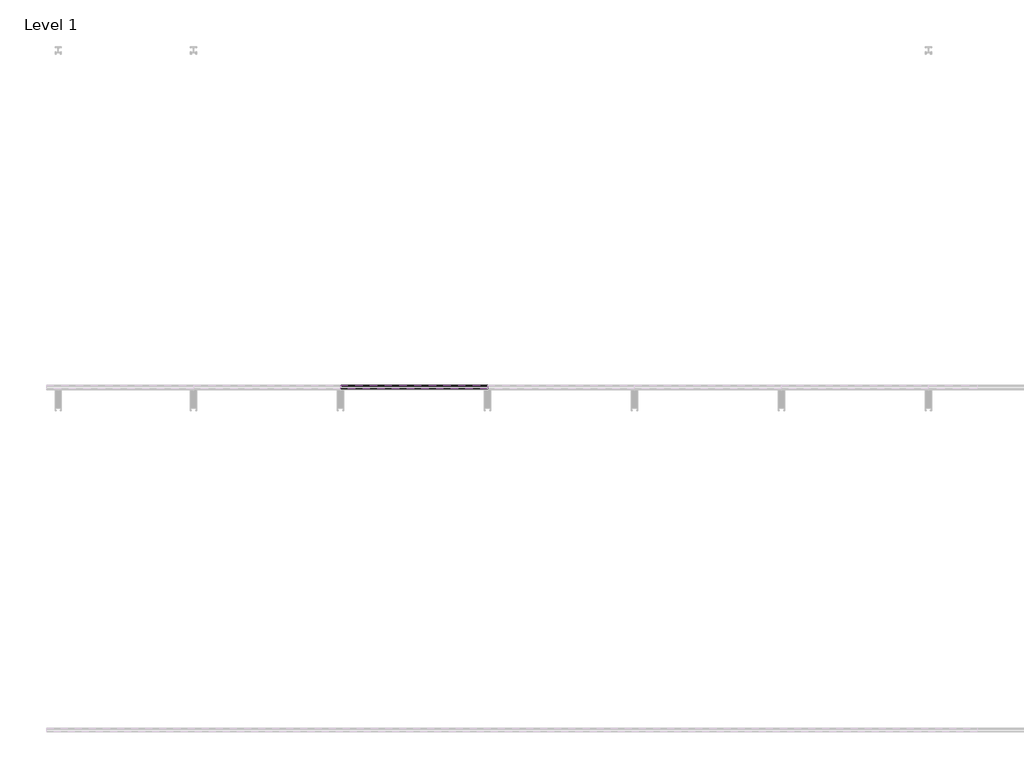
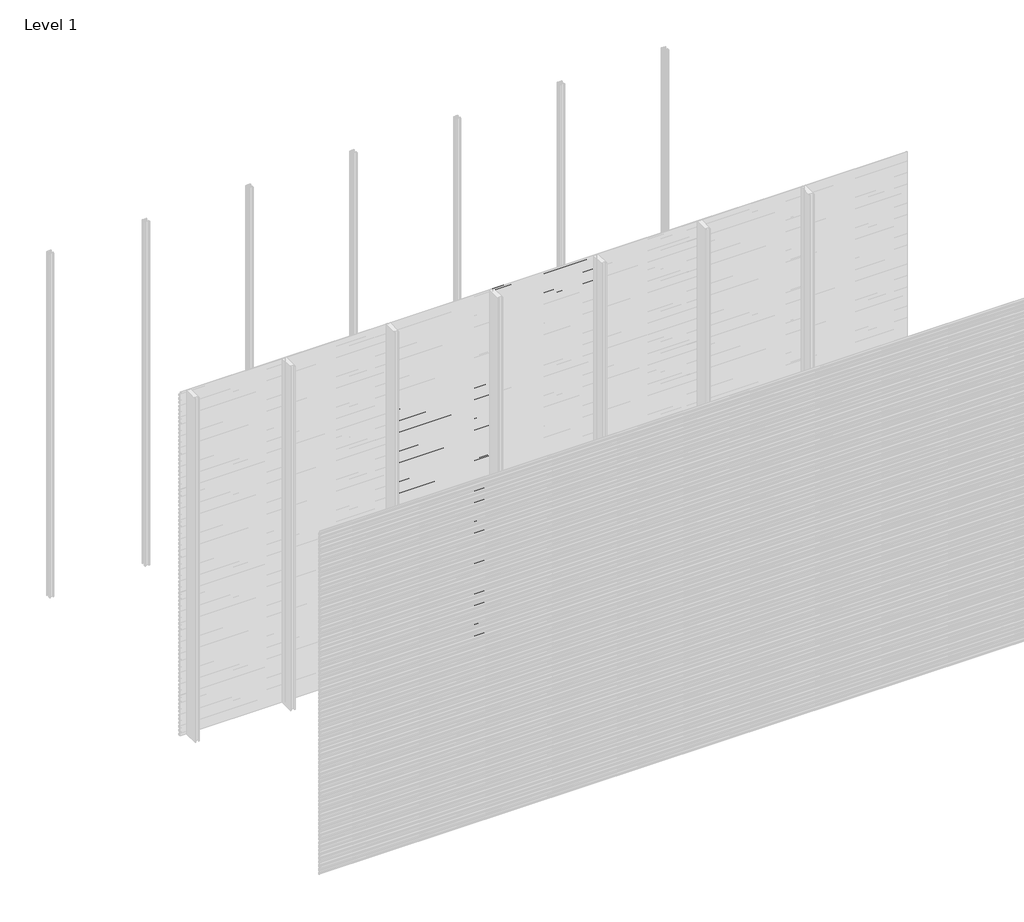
# One storey, part 17 of 96: 77 proxies.
"""IFC4 building model written with IfcOpenShell, lengths in millimetres."""

from ifc_helpers import new_model, si_unit, frame, origin, place, context, project, spatial, polyline, outline, extrude, element, save

model = new_model("IFC4")

# Units and contexts
model_context = context("Model", 3, world=origin())
ifc_project = project(units=[si_unit("LENGTHUNIT", "METRE", prefix="MILLI")], contexts=[model_context])

# Site, building, storey
site = spatial("IfcSite", under=ifc_project)
building = spatial("IfcBuilding", under=site)
storey = spatial("IfcBuildingStorey", under=building, Name="Level 1", Elevation=0.0)

# Proxies
placement = place(None, origin())
element("IfcBuildingElementProxy", 1, Name="Wall Sweeps", at=placement, inside=storey, context=model_context, shape_type="SweptSolid", body=[
    extrude(outline(polyline([(-47977.6, 2272.4655033), (-47977.6, 2258.1779188), (-47982.4114965, 2255.4), (-47982.4114965, 2256.6701706), (-47978.85, 2258.7264016), (-47978.85, 2271.7437382), (-47998.0, 2282.8000799), (-47998.0, 2297.7), (-47996.75, 2297.7), (-47996.75, 2283.5217609), (-47977.6, 2272.4655033)])), frame((1714.2857143, 0.0, 0.0), z_axis=(1.0, 0.0, 0.0), x_axis=(0.0, 1.0, 0.0)), (0.0, 0.0, 1.0), 857.1428571),
])
element("IfcBuildingElementProxy", 2, Name="Wall Sweeps", at=placement, inside=storey, context=model_context, shape_type="SweptSolid", body=[
    extrude(outline(polyline([(-47977.6, 2239.1655033), (-47977.6, 2224.8779188), (-47982.4114965, 2222.1), (-47982.4114965, 2223.3701706), (-47978.85, 2225.4264016), (-47978.85, 2238.4437382), (-47998.0, 2249.5000799), (-47998.0, 2264.4), (-47996.75, 2264.4), (-47996.75, 2250.2217609), (-47977.6, 2239.1655033)])), frame((1714.2857143, 0.0, 0.0), z_axis=(1.0, 0.0, 0.0), x_axis=(0.0, 1.0, 0.0)), (0.0, 0.0, 1.0), 857.1428571),
])
element("IfcBuildingElementProxy", 3, Name="Wall Sweeps", at=placement, inside=storey, context=model_context, shape_type="SweptSolid", body=[
    extrude(outline(polyline([(-47977.6, 2205.8655033), (-47977.6, 2191.5779188), (-47982.4114965, 2188.8), (-47982.4114965, 2190.0701706), (-47978.85, 2192.1264016), (-47978.85, 2205.1437382), (-47998.0, 2216.2000799), (-47998.0, 2231.1), (-47996.75, 2231.1), (-47996.75, 2216.9217609), (-47977.6, 2205.8655033)])), frame((1714.2857143, 0.0, 0.0), z_axis=(1.0, 0.0, 0.0), x_axis=(0.0, 1.0, 0.0)), (0.0, 0.0, 1.0), 857.1428571),
])
element("IfcBuildingElementProxy", 4, Name="Wall Sweeps", at=placement, inside=storey, context=model_context, shape_type="SweptSolid", body=[
    extrude(outline(polyline([(-47977.6, 2172.5655033), (-47977.6, 2158.2779188), (-47982.4114965, 2155.5), (-47982.4114965, 2156.7701706), (-47978.85, 2158.8264016), (-47978.85, 2171.8437382), (-47998.0, 2182.9000799), (-47998.0, 2197.8), (-47996.75, 2197.8), (-47996.75, 2183.6217609), (-47977.6, 2172.5655033)])), frame((1714.2857143, 0.0, 0.0), z_axis=(1.0, 0.0, 0.0), x_axis=(0.0, 1.0, 0.0)), (0.0, 0.0, 1.0), 857.1428571),
])
element("IfcBuildingElementProxy", 5, Name="Wall Sweeps", at=placement, inside=storey, context=model_context, shape_type="SweptSolid", body=[
    extrude(outline(polyline([(-47977.6, 2139.2655033), (-47977.6, 2124.9779188), (-47982.4114965, 2122.2), (-47982.4114965, 2123.4701706), (-47978.85, 2125.5264016), (-47978.85, 2138.5437382), (-47998.0, 2149.6000799), (-47998.0, 2164.5), (-47996.75, 2164.5), (-47996.75, 2150.3217609), (-47977.6, 2139.2655033)])), frame((1714.2857143, 0.0, 0.0), z_axis=(1.0, 0.0, 0.0), x_axis=(0.0, 1.0, 0.0)), (0.0, 0.0, 1.0), 857.1428571),
])
element("IfcBuildingElementProxy", 6, Name="Wall Sweeps", at=placement, inside=storey, context=model_context, shape_type="SweptSolid", body=[
    extrude(outline(polyline([(-47977.6, 2105.9655033), (-47977.6, 2091.6779188), (-47982.4114965, 2088.9), (-47982.4114965, 2090.1701706), (-47978.85, 2092.2264016), (-47978.85, 2105.2437382), (-47998.0, 2116.3000799), (-47998.0, 2131.2), (-47996.75, 2131.2), (-47996.75, 2117.0217609), (-47977.6, 2105.9655033)])), frame((1714.2857143, 0.0, 0.0), z_axis=(1.0, 0.0, 0.0), x_axis=(0.0, 1.0, 0.0)), (0.0, 0.0, 1.0), 857.1428571),
])
element("IfcBuildingElementProxy", 7, Name="Wall Sweeps", at=placement, inside=storey, context=model_context, shape_type="SweptSolid", body=[
    extrude(outline(polyline([(-47977.6, 2072.6655033), (-47977.6, 2058.3779188), (-47982.4114965, 2055.6), (-47982.4114965, 2056.8701706), (-47978.85, 2058.9264016), (-47978.85, 2071.9437382), (-47998.0, 2083.0000799), (-47998.0, 2097.9), (-47996.75, 2097.9), (-47996.75, 2083.7217609), (-47977.6, 2072.6655033)])), frame((1714.2857143, 0.0, 0.0), z_axis=(1.0, 0.0, 0.0), x_axis=(0.0, 1.0, 0.0)), (0.0, 0.0, 1.0), 857.1428571),
])
element("IfcBuildingElementProxy", 8, Name="Wall Sweeps", at=placement, inside=storey, context=model_context, shape_type="SweptSolid", body=[
    extrude(outline(polyline([(-47977.6, 2039.3655033), (-47977.6, 2025.0779188), (-47982.4114965, 2022.3), (-47982.4114965, 2023.5701706), (-47978.85, 2025.6264016), (-47978.85, 2038.6437382), (-47998.0, 2049.7000799), (-47998.0, 2064.6), (-47996.75, 2064.6), (-47996.75, 2050.4217609), (-47977.6, 2039.3655033)])), frame((1714.2857143, 0.0, 0.0), z_axis=(1.0, 0.0, 0.0), x_axis=(0.0, 1.0, 0.0)), (0.0, 0.0, 1.0), 857.1428571),
])
element("IfcBuildingElementProxy", 9, Name="Wall Sweeps", at=placement, inside=storey, context=model_context, shape_type="SweptSolid", body=[
    extrude(outline(polyline([(-47977.6, 2006.0655033), (-47977.6, 1991.7779188), (-47982.4114965, 1989.0), (-47982.4114965, 1990.2701706), (-47978.85, 1992.3264016), (-47978.85, 2005.3437382), (-47998.0, 2016.4000799), (-47998.0, 2031.3), (-47996.75, 2031.3), (-47996.75, 2017.1217609), (-47977.6, 2006.0655033)])), frame((1714.2857143, 0.0, 0.0), z_axis=(1.0, 0.0, 0.0), x_axis=(0.0, 1.0, 0.0)), (0.0, 0.0, 1.0), 857.1428571),
])
element("IfcBuildingElementProxy", 10, Name="Wall Sweeps", at=placement, inside=storey, context=model_context, shape_type="SweptSolid", body=[
    extrude(outline(polyline([(-47977.6, 1972.7655033), (-47977.6, 1958.4779188), (-47982.4114965, 1955.7), (-47982.4114965, 1956.9701706), (-47978.85, 1959.0264016), (-47978.85, 1972.0437382), (-47998.0, 1983.1000799), (-47998.0, 1998.0), (-47996.75, 1998.0), (-47996.75, 1983.8217609), (-47977.6, 1972.7655033)])), frame((1714.2857143, 0.0, 0.0), z_axis=(1.0, 0.0, 0.0), x_axis=(0.0, 1.0, 0.0)), (0.0, 0.0, 1.0), 857.1428571),
])
element("IfcBuildingElementProxy", 11, Name="Wall Sweeps", at=placement, inside=storey, context=model_context, shape_type="SweptSolid", body=[
    extrude(outline(polyline([(-47977.6, 1939.4655033), (-47977.6, 1925.1779188), (-47982.4114965, 1922.4), (-47982.4114965, 1923.6701706), (-47978.85, 1925.7264016), (-47978.85, 1938.7437382), (-47998.0, 1949.8000799), (-47998.0, 1964.7), (-47996.75, 1964.7), (-47996.75, 1950.5217609), (-47977.6, 1939.4655033)])), frame((1714.2857143, 0.0, 0.0), z_axis=(1.0, 0.0, 0.0), x_axis=(0.0, 1.0, 0.0)), (0.0, 0.0, 1.0), 857.1428571),
])
element("IfcBuildingElementProxy", 12, Name="Wall Sweeps", at=placement, inside=storey, context=model_context, shape_type="SweptSolid", body=[
    extrude(outline(polyline([(-47977.6, 1906.1655033), (-47977.6, 1891.8779188), (-47982.4114965, 1889.1), (-47982.4114965, 1890.3701706), (-47978.85, 1892.4264016), (-47978.85, 1905.4437382), (-47998.0, 1916.5000799), (-47998.0, 1931.4), (-47996.75, 1931.4), (-47996.75, 1917.2217609), (-47977.6, 1906.1655033)])), frame((1714.2857143, 0.0, 0.0), z_axis=(1.0, 0.0, 0.0), x_axis=(0.0, 1.0, 0.0)), (0.0, 0.0, 1.0), 857.1428571),
])
element("IfcBuildingElementProxy", 13, Name="Wall Sweeps", at=placement, inside=storey, context=model_context, shape_type="SweptSolid", body=[
    extrude(outline(polyline([(-47977.6, 1872.8655033), (-47977.6, 1858.5779188), (-47982.4114965, 1855.8), (-47982.4114965, 1857.0701706), (-47978.85, 1859.1264016), (-47978.85, 1872.1437382), (-47998.0, 1883.2000799), (-47998.0, 1898.1), (-47996.75, 1898.1), (-47996.75, 1883.9217609), (-47977.6, 1872.8655033)])), frame((1714.2857143, 0.0, 0.0), z_axis=(1.0, 0.0, 0.0), x_axis=(0.0, 1.0, 0.0)), (0.0, 0.0, 1.0), 857.1428571),
])
element("IfcBuildingElementProxy", 14, Name="Wall Sweeps", at=placement, inside=storey, context=model_context, shape_type="SweptSolid", body=[
    extrude(outline(polyline([(-47977.6, 1839.5655033), (-47977.6, 1825.2779188), (-47982.4114965, 1822.5), (-47982.4114965, 1823.7701706), (-47978.85, 1825.8264016), (-47978.85, 1838.8437382), (-47998.0, 1849.9000799), (-47998.0, 1864.8), (-47996.75, 1864.8), (-47996.75, 1850.6217609), (-47977.6, 1839.5655033)])), frame((1714.2857143, 0.0, 0.0), z_axis=(1.0, 0.0, 0.0), x_axis=(0.0, 1.0, 0.0)), (0.0, 0.0, 1.0), 857.1428571),
])
element("IfcBuildingElementProxy", 15, Name="Wall Sweeps", at=placement, inside=storey, context=model_context, shape_type="SweptSolid", body=[
    extrude(outline(polyline([(-47977.6, 1806.2655033), (-47977.6, 1791.9779188), (-47982.4114965, 1789.2), (-47982.4114965, 1790.4701706), (-47978.85, 1792.5264016), (-47978.85, 1805.5437382), (-47998.0, 1816.6000799), (-47998.0, 1831.5), (-47996.75, 1831.5), (-47996.75, 1817.3217609), (-47977.6, 1806.2655033)])), frame((1714.2857143, 0.0, 0.0), z_axis=(1.0, 0.0, 0.0), x_axis=(0.0, 1.0, 0.0)), (0.0, 0.0, 1.0), 857.1428571),
])
element("IfcBuildingElementProxy", 16, Name="Wall Sweeps", at=placement, inside=storey, context=model_context, shape_type="SweptSolid", body=[
    extrude(outline(polyline([(-47977.6, 1772.9655033), (-47977.6, 1758.6779188), (-47982.4114965, 1755.9), (-47982.4114965, 1757.1701706), (-47978.85, 1759.2264016), (-47978.85, 1772.2437382), (-47998.0, 1783.3000799), (-47998.0, 1798.2), (-47996.75, 1798.2), (-47996.75, 1784.0217609), (-47977.6, 1772.9655033)])), frame((1714.2857143, 0.0, 0.0), z_axis=(1.0, 0.0, 0.0), x_axis=(0.0, 1.0, 0.0)), (0.0, 0.0, 1.0), 857.1428571),
])
element("IfcBuildingElementProxy", 17, Name="Wall Sweeps", at=placement, inside=storey, context=model_context, shape_type="SweptSolid", body=[
    extrude(outline(polyline([(-47977.6, 1739.6655033), (-47977.6, 1725.3779188), (-47982.4114965, 1722.6), (-47982.4114965, 1723.8701706), (-47978.85, 1725.9264016), (-47978.85, 1738.9437382), (-47998.0, 1750.0000799), (-47998.0, 1764.9), (-47996.75, 1764.9), (-47996.75, 1750.7217609), (-47977.6, 1739.6655033)])), frame((1714.2857143, 0.0, 0.0), z_axis=(1.0, 0.0, 0.0), x_axis=(0.0, 1.0, 0.0)), (0.0, 0.0, 1.0), 857.1428571),
])
element("IfcBuildingElementProxy", 18, Name="Wall Sweeps", at=placement, inside=storey, context=model_context, shape_type="SweptSolid", body=[
    extrude(outline(polyline([(-47977.6, 1706.3655033), (-47977.6, 1692.0779188), (-47982.4114965, 1689.3), (-47982.4114965, 1690.5701706), (-47978.85, 1692.6264016), (-47978.85, 1705.6437382), (-47998.0, 1716.7000799), (-47998.0, 1731.6), (-47996.75, 1731.6), (-47996.75, 1717.4217609), (-47977.6, 1706.3655033)])), frame((1714.2857143, 0.0, 0.0), z_axis=(1.0, 0.0, 0.0), x_axis=(0.0, 1.0, 0.0)), (0.0, 0.0, 1.0), 857.1428571),
])
element("IfcBuildingElementProxy", 19, Name="Wall Sweeps", at=placement, inside=storey, context=model_context, shape_type="SweptSolid", body=[
    extrude(outline(polyline([(-47977.6, 1673.0655033), (-47977.6, 1658.7779188), (-47982.4114965, 1656.0), (-47982.4114965, 1657.2701706), (-47978.85, 1659.3264016), (-47978.85, 1672.3437382), (-47998.0, 1683.4000799), (-47998.0, 1698.3), (-47996.75, 1698.3), (-47996.75, 1684.1217609), (-47977.6, 1673.0655033)])), frame((1714.2857143, 0.0, 0.0), z_axis=(1.0, 0.0, 0.0), x_axis=(0.0, 1.0, 0.0)), (0.0, 0.0, 1.0), 857.1428571),
])
element("IfcBuildingElementProxy", 20, Name="Wall Sweeps", at=placement, inside=storey, context=model_context, shape_type="SweptSolid", body=[
    extrude(outline(polyline([(-47977.6, 1639.7655033), (-47977.6, 1625.4779188), (-47982.4114965, 1622.7), (-47982.4114965, 1623.9701706), (-47978.85, 1626.0264016), (-47978.85, 1639.0437382), (-47998.0, 1650.1000799), (-47998.0, 1665.0), (-47996.75, 1665.0), (-47996.75, 1650.8217609), (-47977.6, 1639.7655033)])), frame((1714.2857143, 0.0, 0.0), z_axis=(1.0, 0.0, 0.0), x_axis=(0.0, 1.0, 0.0)), (0.0, 0.0, 1.0), 857.1428571),
])
element("IfcBuildingElementProxy", 21, Name="Wall Sweeps", at=placement, inside=storey, context=model_context, shape_type="SweptSolid", body=[
    extrude(outline(polyline([(-47977.6, 1606.4655033), (-47977.6, 1592.1779188), (-47982.4114965, 1589.4), (-47982.4114965, 1590.6701706), (-47978.85, 1592.7264016), (-47978.85, 1605.7437382), (-47998.0, 1616.8000799), (-47998.0, 1631.7), (-47996.75, 1631.7), (-47996.75, 1617.5217609), (-47977.6, 1606.4655033)])), frame((1714.2857143, 0.0, 0.0), z_axis=(1.0, 0.0, 0.0), x_axis=(0.0, 1.0, 0.0)), (0.0, 0.0, 1.0), 857.1428571),
])
element("IfcBuildingElementProxy", 22, Name="Wall Sweeps", at=placement, inside=storey, context=model_context, shape_type="SweptSolid", body=[
    extrude(outline(polyline([(-47977.6, 1573.1655033), (-47977.6, 1558.8779188), (-47982.4114965, 1556.1), (-47982.4114965, 1557.3701706), (-47978.85, 1559.4264016), (-47978.85, 1572.4437382), (-47998.0, 1583.5000799), (-47998.0, 1598.4), (-47996.75, 1598.4), (-47996.75, 1584.2217609), (-47977.6, 1573.1655033)])), frame((1714.2857143, 0.0, 0.0), z_axis=(1.0, 0.0, 0.0), x_axis=(0.0, 1.0, 0.0)), (0.0, 0.0, 1.0), 857.1428571),
])
element("IfcBuildingElementProxy", 23, Name="Wall Sweeps", at=placement, inside=storey, context=model_context, shape_type="SweptSolid", body=[
    extrude(outline(polyline([(-47977.6, 1539.8655033), (-47977.6, 1525.5779188), (-47982.4114965, 1522.8), (-47982.4114965, 1524.0701706), (-47978.85, 1526.1264016), (-47978.85, 1539.1437382), (-47998.0, 1550.2000799), (-47998.0, 1565.1), (-47996.75, 1565.1), (-47996.75, 1550.9217609), (-47977.6, 1539.8655033)])), frame((1714.2857143, 0.0, 0.0), z_axis=(1.0, 0.0, 0.0), x_axis=(0.0, 1.0, 0.0)), (0.0, 0.0, 1.0), 857.1428571),
])
element("IfcBuildingElementProxy", 24, Name="Wall Sweeps", at=placement, inside=storey, context=model_context, shape_type="SweptSolid", body=[
    extrude(outline(polyline([(-47977.6, 1506.5655033), (-47977.6, 1492.2779188), (-47982.4114965, 1489.5), (-47982.4114965, 1490.7701706), (-47978.85, 1492.8264016), (-47978.85, 1505.8437382), (-47998.0, 1516.9000799), (-47998.0, 1531.8), (-47996.75, 1531.8), (-47996.75, 1517.6217609), (-47977.6, 1506.5655033)])), frame((1714.2857143, 0.0, 0.0), z_axis=(1.0, 0.0, 0.0), x_axis=(0.0, 1.0, 0.0)), (0.0, 0.0, 1.0), 857.1428571),
])
element("IfcBuildingElementProxy", 25, Name="Wall Sweeps", at=placement, inside=storey, context=model_context, shape_type="SweptSolid", body=[
    extrude(outline(polyline([(-47977.6, 1473.2655033), (-47977.6, 1458.9779188), (-47982.4114965, 1456.2), (-47982.4114965, 1457.4701706), (-47978.85, 1459.5264016), (-47978.85, 1472.5437382), (-47998.0, 1483.6000799), (-47998.0, 1498.5), (-47996.75, 1498.5), (-47996.75, 1484.3217609), (-47977.6, 1473.2655033)])), frame((1714.2857143, 0.0, 0.0), z_axis=(1.0, 0.0, 0.0), x_axis=(0.0, 1.0, 0.0)), (0.0, 0.0, 1.0), 857.1428571),
])
element("IfcBuildingElementProxy", 26, Name="Wall Sweeps", at=placement, inside=storey, context=model_context, shape_type="SweptSolid", body=[
    extrude(outline(polyline([(-47977.6, 1439.9655033), (-47977.6, 1425.6779188), (-47982.4114965, 1422.9), (-47982.4114965, 1424.1701706), (-47978.85, 1426.2264016), (-47978.85, 1439.2437382), (-47998.0, 1450.3000799), (-47998.0, 1465.2), (-47996.75, 1465.2), (-47996.75, 1451.0217609), (-47977.6, 1439.9655033)])), frame((1714.2857143, 0.0, 0.0), z_axis=(1.0, 0.0, 0.0), x_axis=(0.0, 1.0, 0.0)), (0.0, 0.0, 1.0), 857.1428571),
])
element("IfcBuildingElementProxy", 27, Name="Wall Sweeps", at=placement, inside=storey, context=model_context, shape_type="SweptSolid", body=[
    extrude(outline(polyline([(-47977.6, 1406.6655033), (-47977.6, 1392.3779188), (-47982.4114965, 1389.6), (-47982.4114965, 1390.8701706), (-47978.85, 1392.9264016), (-47978.85, 1405.9437382), (-47998.0, 1417.0000799), (-47998.0, 1431.9), (-47996.75, 1431.9), (-47996.75, 1417.7217609), (-47977.6, 1406.6655033)])), frame((1714.2857143, 0.0, 0.0), z_axis=(1.0, 0.0, 0.0), x_axis=(0.0, 1.0, 0.0)), (0.0, 0.0, 1.0), 857.1428571),
])
element("IfcBuildingElementProxy", 28, Name="Wall Sweeps", at=placement, inside=storey, context=model_context, shape_type="SweptSolid", body=[
    extrude(outline(polyline([(-47977.6, 1373.3655033), (-47977.6, 1359.0779188), (-47982.4114965, 1356.3), (-47982.4114965, 1357.5701706), (-47978.85, 1359.6264016), (-47978.85, 1372.6437382), (-47998.0, 1383.7000799), (-47998.0, 1398.6), (-47996.75, 1398.6), (-47996.75, 1384.4217609), (-47977.6, 1373.3655033)])), frame((1714.2857143, 0.0, 0.0), z_axis=(1.0, 0.0, 0.0), x_axis=(0.0, 1.0, 0.0)), (0.0, 0.0, 1.0), 857.1428571),
])
element("IfcBuildingElementProxy", 29, Name="Wall Sweeps", at=placement, inside=storey, context=model_context, shape_type="SweptSolid", body=[
    extrude(outline(polyline([(-47977.6, 1340.0655033), (-47977.6, 1325.7779188), (-47982.4114965, 1323.0), (-47982.4114965, 1324.2701706), (-47978.85, 1326.3264016), (-47978.85, 1339.3437382), (-47998.0, 1350.4000799), (-47998.0, 1365.3), (-47996.75, 1365.3), (-47996.75, 1351.1217609), (-47977.6, 1340.0655033)])), frame((1714.2857143, 0.0, 0.0), z_axis=(1.0, 0.0, 0.0), x_axis=(0.0, 1.0, 0.0)), (0.0, 0.0, 1.0), 857.1428571),
])
element("IfcBuildingElementProxy", 30, Name="Wall Sweeps", at=placement, inside=storey, context=model_context, shape_type="SweptSolid", body=[
    extrude(outline(polyline([(-47977.6, 1306.7655033), (-47977.6, 1292.4779188), (-47982.4114965, 1289.7), (-47982.4114965, 1290.9701706), (-47978.85, 1293.0264016), (-47978.85, 1306.0437382), (-47998.0, 1317.1000799), (-47998.0, 1332.0), (-47996.75, 1332.0), (-47996.75, 1317.8217609), (-47977.6, 1306.7655033)])), frame((1714.2857143, 0.0, 0.0), z_axis=(1.0, 0.0, 0.0), x_axis=(0.0, 1.0, 0.0)), (0.0, 0.0, 1.0), 857.1428571),
])
element("IfcBuildingElementProxy", 31, Name="Wall Sweeps", at=placement, inside=storey, context=model_context, shape_type="SweptSolid", body=[
    extrude(outline(polyline([(-47977.6, 1273.4655033), (-47977.6, 1259.1779188), (-47982.4114965, 1256.4), (-47982.4114965, 1257.6701706), (-47978.85, 1259.7264016), (-47978.85, 1272.7437382), (-47998.0, 1283.8000799), (-47998.0, 1298.7), (-47996.75, 1298.7), (-47996.75, 1284.5217609), (-47977.6, 1273.4655033)])), frame((1714.2857143, 0.0, 0.0), z_axis=(1.0, 0.0, 0.0), x_axis=(0.0, 1.0, 0.0)), (0.0, 0.0, 1.0), 857.1428571),
])
element("IfcBuildingElementProxy", 32, Name="Wall Sweeps", at=placement, inside=storey, context=model_context, shape_type="SweptSolid", body=[
    extrude(outline(polyline([(-47977.6, 1240.1655033), (-47977.6, 1225.8779188), (-47982.4114965, 1223.1), (-47982.4114965, 1224.3701706), (-47978.85, 1226.4264016), (-47978.85, 1239.4437382), (-47998.0, 1250.5000799), (-47998.0, 1265.4), (-47996.75, 1265.4), (-47996.75, 1251.2217609), (-47977.6, 1240.1655033)])), frame((1714.2857143, 0.0, 0.0), z_axis=(1.0, 0.0, 0.0), x_axis=(0.0, 1.0, 0.0)), (0.0, 0.0, 1.0), 857.1428571),
])
element("IfcBuildingElementProxy", 33, Name="Wall Sweeps", at=placement, inside=storey, context=model_context, shape_type="SweptSolid", body=[
    extrude(outline(polyline([(-47977.6, 1206.8655033), (-47977.6, 1192.5779188), (-47982.4114965, 1189.8), (-47982.4114965, 1191.0701706), (-47978.85, 1193.1264016), (-47978.85, 1206.1437382), (-47998.0, 1217.2000799), (-47998.0, 1232.1), (-47996.75, 1232.1), (-47996.75, 1217.9217609), (-47977.6, 1206.8655033)])), frame((1714.2857143, 0.0, 0.0), z_axis=(1.0, 0.0, 0.0), x_axis=(0.0, 1.0, 0.0)), (0.0, 0.0, 1.0), 857.1428571),
])
element("IfcBuildingElementProxy", 34, Name="Wall Sweeps", at=placement, inside=storey, context=model_context, shape_type="SweptSolid", body=[
    extrude(outline(polyline([(-47977.6, 1173.5655033), (-47977.6, 1159.2779188), (-47982.4114965, 1156.5), (-47982.4114965, 1157.7701706), (-47978.85, 1159.8264016), (-47978.85, 1172.8437382), (-47998.0, 1183.9000799), (-47998.0, 1198.8), (-47996.75, 1198.8), (-47996.75, 1184.6217609), (-47977.6, 1173.5655033)])), frame((1714.2857143, 0.0, 0.0), z_axis=(1.0, 0.0, 0.0), x_axis=(0.0, 1.0, 0.0)), (0.0, 0.0, 1.0), 857.1428571),
])
element("IfcBuildingElementProxy", 35, Name="Wall Sweeps", at=placement, inside=storey, context=model_context, shape_type="SweptSolid", body=[
    extrude(outline(polyline([(-47977.6, 1140.2655033), (-47977.6, 1125.9779188), (-47982.4114965, 1123.2), (-47982.4114965, 1124.4701706), (-47978.85, 1126.5264016), (-47978.85, 1139.5437382), (-47998.0, 1150.6000799), (-47998.0, 1165.5), (-47996.75, 1165.5), (-47996.75, 1151.3217609), (-47977.6, 1140.2655033)])), frame((1714.2857143, 0.0, 0.0), z_axis=(1.0, 0.0, 0.0), x_axis=(0.0, 1.0, 0.0)), (0.0, 0.0, 1.0), 857.1428571),
])
element("IfcBuildingElementProxy", 36, Name="Wall Sweeps", at=placement, inside=storey, context=model_context, shape_type="SweptSolid", body=[
    extrude(outline(polyline([(-47977.6, 1106.9655033), (-47977.6, 1092.6779188), (-47982.4114965, 1089.9), (-47982.4114965, 1091.1701706), (-47978.85, 1093.2264016), (-47978.85, 1106.2437382), (-47998.0, 1117.3000799), (-47998.0, 1132.2), (-47996.75, 1132.2), (-47996.75, 1118.0217609), (-47977.6, 1106.9655033)])), frame((1714.2857143, 0.0, 0.0), z_axis=(1.0, 0.0, 0.0), x_axis=(0.0, 1.0, 0.0)), (0.0, 0.0, 1.0), 857.1428571),
])
element("IfcBuildingElementProxy", 37, Name="Wall Sweeps", at=placement, inside=storey, context=model_context, shape_type="SweptSolid", body=[
    extrude(outline(polyline([(-47977.6, 1073.6655033), (-47977.6, 1059.3779188), (-47982.4114965, 1056.6), (-47982.4114965, 1057.8701706), (-47978.85, 1059.9264016), (-47978.85, 1072.9437382), (-47998.0, 1084.0000799), (-47998.0, 1098.9), (-47996.75, 1098.9), (-47996.75, 1084.7217609), (-47977.6, 1073.6655033)])), frame((1714.2857143, 0.0, 0.0), z_axis=(1.0, 0.0, 0.0), x_axis=(0.0, 1.0, 0.0)), (0.0, 0.0, 1.0), 857.1428571),
])
element("IfcBuildingElementProxy", 38, Name="Wall Sweeps", at=placement, inside=storey, context=model_context, shape_type="SweptSolid", body=[
    extrude(outline(polyline([(-47977.6, 1040.3655033), (-47977.6, 1026.0779188), (-47982.4114965, 1023.3), (-47982.4114965, 1024.5701706), (-47978.85, 1026.6264016), (-47978.85, 1039.6437382), (-47998.0, 1050.7000799), (-47998.0, 1065.6), (-47996.75, 1065.6), (-47996.75, 1051.4217609), (-47977.6, 1040.3655033)])), frame((1714.2857143, 0.0, 0.0), z_axis=(1.0, 0.0, 0.0), x_axis=(0.0, 1.0, 0.0)), (0.0, 0.0, 1.0), 857.1428571),
])
element("IfcBuildingElementProxy", 39, Name="Wall Sweeps", at=placement, inside=storey, context=model_context, shape_type="SweptSolid", body=[
    extrude(outline(polyline([(-47977.6, 1007.0655033), (-47977.6, 992.7779188), (-47982.4114965, 990.0), (-47982.4114965, 991.2701706), (-47978.85, 993.3264016), (-47978.85, 1006.3437382), (-47998.0, 1017.4000799), (-47998.0, 1032.3), (-47996.75, 1032.3), (-47996.75, 1018.1217609), (-47977.6, 1007.0655033)])), frame((1714.2857143, 0.0, 0.0), z_axis=(1.0, 0.0, 0.0), x_axis=(0.0, 1.0, 0.0)), (0.0, 0.0, 1.0), 857.1428571),
])
element("IfcBuildingElementProxy", 40, Name="Wall Sweeps", at=placement, inside=storey, context=model_context, shape_type="SweptSolid", body=[
    extrude(outline(polyline([(-47977.6, 973.7655033), (-47977.6, 959.4779188), (-47982.4114965, 956.7), (-47982.4114965, 957.9701706), (-47978.85, 960.0264016), (-47978.85, 973.0437382), (-47998.0, 984.1000799), (-47998.0, 999.0), (-47996.75, 999.0), (-47996.75, 984.8217609), (-47977.6, 973.7655033)])), frame((1714.2857143, 0.0, 0.0), z_axis=(1.0, 0.0, 0.0), x_axis=(0.0, 1.0, 0.0)), (0.0, 0.0, 1.0), 857.1428571),
])
element("IfcBuildingElementProxy", 41, Name="Wall Sweeps", at=placement, inside=storey, context=model_context, shape_type="SweptSolid", body=[
    extrude(outline(polyline([(-47977.6, 940.4655033), (-47977.6, 926.1779188), (-47982.4114965, 923.4), (-47982.4114965, 924.6701706), (-47978.85, 926.7264016), (-47978.85, 939.7437382), (-47998.0, 950.8000799), (-47998.0, 965.7), (-47996.75, 965.7), (-47996.75, 951.5217609), (-47977.6, 940.4655033)])), frame((1714.2857143, 0.0, 0.0), z_axis=(1.0, 0.0, 0.0), x_axis=(0.0, 1.0, 0.0)), (0.0, 0.0, 1.0), 857.1428571),
])
element("IfcBuildingElementProxy", 42, Name="Wall Sweeps", at=placement, inside=storey, context=model_context, shape_type="SweptSolid", body=[
    extrude(outline(polyline([(-47977.6, 907.1655033), (-47977.6, 892.8779188), (-47982.4114965, 890.1), (-47982.4114965, 891.3701706), (-47978.85, 893.4264016), (-47978.85, 906.4437382), (-47998.0, 917.5000799), (-47998.0, 932.4), (-47996.75, 932.4), (-47996.75, 918.2217609), (-47977.6, 907.1655033)])), frame((1714.2857143, 0.0, 0.0), z_axis=(1.0, 0.0, 0.0), x_axis=(0.0, 1.0, 0.0)), (0.0, 0.0, 1.0), 857.1428571),
])
element("IfcBuildingElementProxy", 43, Name="Wall Sweeps", at=placement, inside=storey, context=model_context, shape_type="SweptSolid", body=[
    extrude(outline(polyline([(-47977.6, 873.8655033), (-47977.6, 859.5779188), (-47982.4114965, 856.8), (-47982.4114965, 858.0701706), (-47978.85, 860.1264016), (-47978.85, 873.1437382), (-47998.0, 884.2000799), (-47998.0, 899.1), (-47996.75, 899.1), (-47996.75, 884.9217609), (-47977.6, 873.8655033)])), frame((1714.2857143, 0.0, 0.0), z_axis=(1.0, 0.0, 0.0), x_axis=(0.0, 1.0, 0.0)), (0.0, 0.0, 1.0), 857.1428571),
])
element("IfcBuildingElementProxy", 44, Name="Wall Sweeps", at=placement, inside=storey, context=model_context, shape_type="SweptSolid", body=[
    extrude(outline(polyline([(-47977.6, 840.5655033), (-47977.6, 826.2779188), (-47982.4114965, 823.5), (-47982.4114965, 824.7701706), (-47978.85, 826.8264016), (-47978.85, 839.8437382), (-47998.0, 850.9000799), (-47998.0, 865.8), (-47996.75, 865.8), (-47996.75, 851.6217609), (-47977.6, 840.5655033)])), frame((1714.2857143, 0.0, 0.0), z_axis=(1.0, 0.0, 0.0), x_axis=(0.0, 1.0, 0.0)), (0.0, 0.0, 1.0), 857.1428571),
])
element("IfcBuildingElementProxy", 45, Name="Wall Sweeps", at=placement, inside=storey, context=model_context, shape_type="SweptSolid", body=[
    extrude(outline(polyline([(-47977.6, 807.2655033), (-47977.6, 792.9779188), (-47982.4114965, 790.2), (-47982.4114965, 791.4701706), (-47978.85, 793.5264016), (-47978.85, 806.5437382), (-47998.0, 817.6000799), (-47998.0, 832.5), (-47996.75, 832.5), (-47996.75, 818.3217609), (-47977.6, 807.2655033)])), frame((1714.2857143, 0.0, 0.0), z_axis=(1.0, 0.0, 0.0), x_axis=(0.0, 1.0, 0.0)), (0.0, 0.0, 1.0), 857.1428571),
])
element("IfcBuildingElementProxy", 46, Name="Wall Sweeps", at=placement, inside=storey, context=model_context, shape_type="SweptSolid", body=[
    extrude(outline(polyline([(-47977.6, 773.9655033), (-47977.6, 759.6779188), (-47982.4114965, 756.9), (-47982.4114965, 758.1701706), (-47978.85, 760.2264016), (-47978.85, 773.2437382), (-47998.0, 784.3000799), (-47998.0, 799.2), (-47996.75, 799.2), (-47996.75, 785.0217609), (-47977.6, 773.9655033)])), frame((1714.2857143, 0.0, 0.0), z_axis=(1.0, 0.0, 0.0), x_axis=(0.0, 1.0, 0.0)), (0.0, 0.0, 1.0), 857.1428571),
])
element("IfcBuildingElementProxy", 47, Name="Wall Sweeps", at=placement, inside=storey, context=model_context, shape_type="SweptSolid", body=[
    extrude(outline(polyline([(-47977.6, 740.6655033), (-47977.6, 726.3779188), (-47982.4114965, 723.6), (-47982.4114965, 724.8701706), (-47978.85, 726.9264016), (-47978.85, 739.9437382), (-47998.0, 751.0000799), (-47998.0, 765.9), (-47996.75, 765.9), (-47996.75, 751.7217609), (-47977.6, 740.6655033)])), frame((1714.2857143, 0.0, 0.0), z_axis=(1.0, 0.0, 0.0), x_axis=(0.0, 1.0, 0.0)), (0.0, 0.0, 1.0), 857.1428571),
])
element("IfcBuildingElementProxy", 48, Name="Wall Sweeps", at=placement, inside=storey, context=model_context, shape_type="SweptSolid", body=[
    extrude(outline(polyline([(-47977.6, 707.3655033), (-47977.6, 693.0779188), (-47982.4114965, 690.3), (-47982.4114965, 691.5701706), (-47978.85, 693.6264016), (-47978.85, 706.6437382), (-47998.0, 717.7000799), (-47998.0, 732.6), (-47996.75, 732.6), (-47996.75, 718.4217609), (-47977.6, 707.3655033)])), frame((1714.2857143, 0.0, 0.0), z_axis=(1.0, 0.0, 0.0), x_axis=(0.0, 1.0, 0.0)), (0.0, 0.0, 1.0), 857.1428571),
])
element("IfcBuildingElementProxy", 49, Name="Wall Sweeps", at=placement, inside=storey, context=model_context, shape_type="SweptSolid", body=[
    extrude(outline(polyline([(-47977.6, 674.0655033), (-47977.6, 659.7779188), (-47982.4114965, 657.0), (-47982.4114965, 658.2701706), (-47978.85, 660.3264016), (-47978.85, 673.3437382), (-47998.0, 684.4000799), (-47998.0, 699.3), (-47996.75, 699.3), (-47996.75, 685.1217609), (-47977.6, 674.0655033)])), frame((1714.2857143, 0.0, 0.0), z_axis=(1.0, 0.0, 0.0), x_axis=(0.0, 1.0, 0.0)), (0.0, 0.0, 1.0), 857.1428571),
])
element("IfcBuildingElementProxy", 50, Name="Wall Sweeps", at=placement, inside=storey, context=model_context, shape_type="SweptSolid", body=[
    extrude(outline(polyline([(-47977.6, 640.7655033), (-47977.6, 626.4779188), (-47982.4114965, 623.7), (-47982.4114965, 624.9701706), (-47978.85, 627.0264016), (-47978.85, 640.0437382), (-47998.0, 651.1000799), (-47998.0, 666.0), (-47996.75, 666.0), (-47996.75, 651.8217609), (-47977.6, 640.7655033)])), frame((1714.2857143, 0.0, 0.0), z_axis=(1.0, 0.0, 0.0), x_axis=(0.0, 1.0, 0.0)), (0.0, 0.0, 1.0), 857.1428571),
])
element("IfcBuildingElementProxy", 51, Name="Wall Sweeps", at=placement, inside=storey, context=model_context, shape_type="SweptSolid", body=[
    extrude(outline(polyline([(-47977.6, 607.4655033), (-47977.6, 593.1779188), (-47982.4114965, 590.4), (-47982.4114965, 591.6701706), (-47978.85, 593.7264016), (-47978.85, 606.7437382), (-47998.0, 617.8000799), (-47998.0, 632.7), (-47996.75, 632.7), (-47996.75, 618.5217609), (-47977.6, 607.4655033)])), frame((1714.2857143, 0.0, 0.0), z_axis=(1.0, 0.0, 0.0), x_axis=(0.0, 1.0, 0.0)), (0.0, 0.0, 1.0), 857.1428571),
])
element("IfcBuildingElementProxy", 52, Name="Wall Sweeps", at=placement, inside=storey, context=model_context, shape_type="SweptSolid", body=[
    extrude(outline(polyline([(-47977.6, 574.1655033), (-47977.6, 559.8779188), (-47982.4114965, 557.1), (-47982.4114965, 558.3701706), (-47978.85, 560.4264016), (-47978.85, 573.4437382), (-47998.0, 584.5000799), (-47998.0, 599.4), (-47996.75, 599.4), (-47996.75, 585.2217609), (-47977.6, 574.1655033)])), frame((1714.2857143, 0.0, 0.0), z_axis=(1.0, 0.0, 0.0), x_axis=(0.0, 1.0, 0.0)), (0.0, 0.0, 1.0), 857.1428571),
])
element("IfcBuildingElementProxy", 53, Name="Wall Sweeps", at=placement, inside=storey, context=model_context, shape_type="SweptSolid", body=[
    extrude(outline(polyline([(-47977.6, 540.8655033), (-47977.6, 526.5779188), (-47982.4114965, 523.8), (-47982.4114965, 525.0701706), (-47978.85, 527.1264016), (-47978.85, 540.1437382), (-47998.0, 551.2000799), (-47998.0, 566.1), (-47996.75, 566.1), (-47996.75, 551.9217609), (-47977.6, 540.8655033)])), frame((1714.2857143, 0.0, 0.0), z_axis=(1.0, 0.0, 0.0), x_axis=(0.0, 1.0, 0.0)), (0.0, 0.0, 1.0), 857.1428571),
])
element("IfcBuildingElementProxy", 54, Name="Wall Sweeps", at=placement, inside=storey, context=model_context, shape_type="SweptSolid", body=[
    extrude(outline(polyline([(-47977.6, 507.5655033), (-47977.6, 493.2779188), (-47982.4114965, 490.5), (-47982.4114965, 491.7701706), (-47978.85, 493.8264016), (-47978.85, 506.8437382), (-47998.0, 517.9000799), (-47998.0, 532.8), (-47996.75, 532.8), (-47996.75, 518.6217609), (-47977.6, 507.5655033)])), frame((1714.2857143, 0.0, 0.0), z_axis=(1.0, 0.0, 0.0), x_axis=(0.0, 1.0, 0.0)), (0.0, 0.0, 1.0), 857.1428571),
])
element("IfcBuildingElementProxy", 55, Name="Wall Sweeps", at=placement, inside=storey, context=model_context, shape_type="SweptSolid", body=[
    extrude(outline(polyline([(-47977.6, 474.2655033), (-47977.6, 459.9779188), (-47982.4114965, 457.2), (-47982.4114965, 458.4701706), (-47978.85, 460.5264016), (-47978.85, 473.5437382), (-47998.0, 484.6000799), (-47998.0, 499.5), (-47996.75, 499.5), (-47996.75, 485.3217609), (-47977.6, 474.2655033)])), frame((1714.2857143, 0.0, 0.0), z_axis=(1.0, 0.0, 0.0), x_axis=(0.0, 1.0, 0.0)), (0.0, 0.0, 1.0), 857.1428571),
])
element("IfcBuildingElementProxy", 56, Name="Wall Sweeps", at=placement, inside=storey, context=model_context, shape_type="SweptSolid", body=[
    extrude(outline(polyline([(-47977.6, 440.9655033), (-47977.6, 426.6779188), (-47982.4114965, 423.9), (-47982.4114965, 425.1701706), (-47978.85, 427.2264016), (-47978.85, 440.2437382), (-47998.0, 451.3000799), (-47998.0, 466.2), (-47996.75, 466.2), (-47996.75, 452.0217609), (-47977.6, 440.9655033)])), frame((1714.2857143, 0.0, 0.0), z_axis=(1.0, 0.0, 0.0), x_axis=(0.0, 1.0, 0.0)), (0.0, 0.0, 1.0), 857.1428571),
])
element("IfcBuildingElementProxy", 57, Name="Wall Sweeps", at=placement, inside=storey, context=model_context, shape_type="SweptSolid", body=[
    extrude(outline(polyline([(-47977.6, 407.6655033), (-47977.6, 393.3779188), (-47982.4114965, 390.6), (-47982.4114965, 391.8701706), (-47978.85, 393.9264016), (-47978.85, 406.9437382), (-47998.0, 418.0000799), (-47998.0, 432.9), (-47996.75, 432.9), (-47996.75, 418.7217609), (-47977.6, 407.6655033)])), frame((1714.2857143, 0.0, 0.0), z_axis=(1.0, 0.0, 0.0), x_axis=(0.0, 1.0, 0.0)), (0.0, 0.0, 1.0), 857.1428571),
])
element("IfcBuildingElementProxy", 58, Name="Wall Sweeps", at=placement, inside=storey, context=model_context, shape_type="SweptSolid", body=[
    extrude(outline(polyline([(-47977.6, 374.3655033), (-47977.6, 360.0779188), (-47982.4114965, 357.3), (-47982.4114965, 358.5701706), (-47978.85, 360.6264016), (-47978.85, 373.6437382), (-47998.0, 384.7000799), (-47998.0, 399.6), (-47996.75, 399.6), (-47996.75, 385.4217609), (-47977.6, 374.3655033)])), frame((1714.2857143, 0.0, 0.0), z_axis=(1.0, 0.0, 0.0), x_axis=(0.0, 1.0, 0.0)), (0.0, 0.0, 1.0), 857.1428571),
])
element("IfcBuildingElementProxy", 59, Name="Wall Sweeps", at=placement, inside=storey, context=model_context, shape_type="SweptSolid", body=[
    extrude(outline(polyline([(-47977.6, 341.0655033), (-47977.6, 326.7779188), (-47982.4114965, 324.0), (-47982.4114965, 325.2701706), (-47978.85, 327.3264016), (-47978.85, 340.3437382), (-47998.0, 351.4000799), (-47998.0, 366.3), (-47996.75, 366.3), (-47996.75, 352.1217609), (-47977.6, 341.0655033)])), frame((1714.2857143, 0.0, 0.0), z_axis=(1.0, 0.0, 0.0), x_axis=(0.0, 1.0, 0.0)), (0.0, 0.0, 1.0), 857.1428571),
])
element("IfcBuildingElementProxy", 60, Name="Wall Sweeps", at=placement, inside=storey, context=model_context, shape_type="SweptSolid", body=[
    extrude(outline(polyline([(-47977.6, 307.7655033), (-47977.6, 293.4779188), (-47982.4114965, 290.7), (-47982.4114965, 291.9701706), (-47978.85, 294.0264016), (-47978.85, 307.0437382), (-47998.0, 318.1000799), (-47998.0, 333.0), (-47996.75, 333.0), (-47996.75, 318.8217609), (-47977.6, 307.7655033)])), frame((1714.2857143, 0.0, 0.0), z_axis=(1.0, 0.0, 0.0), x_axis=(0.0, 1.0, 0.0)), (0.0, 0.0, 1.0), 857.1428571),
])
element("IfcBuildingElementProxy", 61, Name="Wall Sweeps", at=placement, inside=storey, context=model_context, shape_type="SweptSolid", body=[
    extrude(outline(polyline([(-47977.6, 274.4655033), (-47977.6, 260.1779188), (-47982.4114965, 257.4), (-47982.4114965, 258.6701706), (-47978.85, 260.7264016), (-47978.85, 273.7437382), (-47998.0, 284.8000799), (-47998.0, 299.7), (-47996.75, 299.7), (-47996.75, 285.5217609), (-47977.6, 274.4655033)])), frame((1714.2857143, 0.0, 0.0), z_axis=(1.0, 0.0, 0.0), x_axis=(0.0, 1.0, 0.0)), (0.0, 0.0, 1.0), 857.1428571),
])
element("IfcBuildingElementProxy", 62, Name="Wall Sweeps", at=placement, inside=storey, context=model_context, shape_type="SweptSolid", body=[
    extrude(outline(polyline([(-47977.6, 241.1655033), (-47977.6, 226.8779188), (-47982.4114965, 224.1), (-47982.4114965, 225.3701706), (-47978.85, 227.4264016), (-47978.85, 240.4437382), (-47998.0, 251.5000799), (-47998.0, 266.4), (-47996.75, 266.4), (-47996.75, 252.2217609), (-47977.6, 241.1655033)])), frame((1714.2857143, 0.0, 0.0), z_axis=(1.0, 0.0, 0.0), x_axis=(0.0, 1.0, 0.0)), (0.0, 0.0, 1.0), 857.1428571),
])
element("IfcBuildingElementProxy", 63, Name="Wall Sweeps", at=placement, inside=storey, context=model_context, shape_type="SweptSolid", body=[
    extrude(outline(polyline([(-47977.6, 207.8655033), (-47977.6, 193.5779188), (-47982.4114965, 190.8), (-47982.4114965, 192.0701706), (-47978.85, 194.1264016), (-47978.85, 207.1437382), (-47998.0, 218.2000799), (-47998.0, 233.1), (-47996.75, 233.1), (-47996.75, 218.9217609), (-47977.6, 207.8655033)])), frame((1714.2857143, 0.0, 0.0), z_axis=(1.0, 0.0, 0.0), x_axis=(0.0, 1.0, 0.0)), (0.0, 0.0, 1.0), 857.1428571),
])
element("IfcBuildingElementProxy", 64, Name="Wall Sweeps", at=placement, inside=storey, context=model_context, shape_type="SweptSolid", body=[
    extrude(outline(polyline([(-47977.6, 174.5655033), (-47977.6, 160.2779188), (-47982.4114965, 157.5), (-47982.4114965, 158.7701706), (-47978.85, 160.8264016), (-47978.85, 173.8437382), (-47998.0, 184.9000799), (-47998.0, 199.8), (-47996.75, 199.8), (-47996.75, 185.6217609), (-47977.6, 174.5655033)])), frame((1714.2857143, 0.0, 0.0), z_axis=(1.0, 0.0, 0.0), x_axis=(0.0, 1.0, 0.0)), (0.0, 0.0, 1.0), 857.1428571),
])
element("IfcBuildingElementProxy", 65, Name="Wall Sweeps", at=placement, inside=storey, context=model_context, shape_type="SweptSolid", body=[
    extrude(outline(polyline([(-47977.6, 141.2655033), (-47977.6, 126.9779188), (-47982.4114965, 124.2), (-47982.4114965, 125.4701706), (-47978.85, 127.5264016), (-47978.85, 140.5437382), (-47998.0, 151.6000799), (-47998.0, 166.5), (-47996.75, 166.5), (-47996.75, 152.3217609), (-47977.6, 141.2655033)])), frame((1714.2857143, 0.0, 0.0), z_axis=(1.0, 0.0, 0.0), x_axis=(0.0, 1.0, 0.0)), (0.0, 0.0, 1.0), 857.1428571),
])
element("IfcBuildingElementProxy", 66, Name="Wall Sweeps", at=placement, inside=storey, context=model_context, shape_type="SweptSolid", body=[
    extrude(outline(polyline([(-47977.6, 107.9655033), (-47977.6, 93.6779188), (-47982.4114965, 90.9), (-47982.4114965, 92.1701706), (-47978.85, 94.2264016), (-47978.85, 107.2437382), (-47998.0, 118.3000799), (-47998.0, 133.2), (-47996.75, 133.2), (-47996.75, 119.0217609), (-47977.6, 107.9655033)])), frame((1714.2857143, 0.0, 0.0), z_axis=(1.0, 0.0, 0.0), x_axis=(0.0, 1.0, 0.0)), (0.0, 0.0, 1.0), 857.1428571),
])
element("IfcBuildingElementProxy", 67, Name="Wall Sweeps", at=placement, inside=storey, context=model_context, shape_type="SweptSolid", body=[
    extrude(outline(polyline([(-47977.6, 74.6655033), (-47977.6, 60.3779188), (-47982.4114965, 57.6), (-47982.4114965, 58.8701706), (-47978.85, 60.9264016), (-47978.85, 73.9437382), (-47998.0, 85.0000799), (-47998.0, 99.9), (-47996.75, 99.9), (-47996.75, 85.7217609), (-47977.6, 74.6655033)])), frame((1714.2857143, 0.0, 0.0), z_axis=(1.0, 0.0, 0.0), x_axis=(0.0, 1.0, 0.0)), (0.0, 0.0, 1.0), 857.1428571),
])
element("IfcBuildingElementProxy", 68, Name="Wall Sweeps", at=placement, inside=storey, context=model_context, shape_type="SweptSolid", body=[
    extrude(outline(polyline([(-47977.6, 41.3655033), (-47977.6, 27.0779188), (-47982.4114965, 24.3), (-47982.4114965, 25.5701706), (-47978.85, 27.6264016), (-47978.85, 40.6437382), (-47998.0, 51.7000799), (-47998.0, 66.6), (-47996.75, 66.6), (-47996.75, 52.4217609), (-47977.6, 41.3655033)])), frame((1714.2857143, 0.0, 0.0), z_axis=(1.0, 0.0, 0.0), x_axis=(0.0, 1.0, 0.0)), (0.0, 0.0, 1.0), 857.1428571),
])
element("IfcBuildingElementProxy", 69, Name="Wall Sweeps", at=placement, inside=storey, context=model_context, shape_type="SweptSolid", body=[
    extrude(outline(polyline([(-47977.6, 8.0655033), (-47977.6, -6.2220812), (-47982.4114965, -9.0), (-47982.4114965, -7.7298294), (-47978.85, -5.6735984), (-47978.85, 7.3437382), (-47998.0, 18.4000799), (-47998.0, 33.3), (-47996.75, 33.3), (-47996.75, 19.1217609), (-47977.6, 8.0655033)])), frame((1714.2857143, 0.0, 0.0), z_axis=(1.0, 0.0, 0.0), x_axis=(0.0, 1.0, 0.0)), (0.0, 0.0, 1.0), 857.1428571),
])
element("IfcBuildingElementProxy", 70, Name="Wall Sweeps", at=placement, inside=storey, context=model_context, shape_type="SweptSolid", body=[
    extrude(outline(polyline([(-47977.6, 2971.7655033), (-47977.6, 2957.4779188), (-47982.4114965, 2954.7), (-47982.4114965, 2955.9701706), (-47978.85, 2958.0264016), (-47978.85, 2971.0437382), (-47998.0, 2982.1000799), (-47998.0, 2997.0), (-47996.75, 2997.0), (-47996.75, 2982.8217609), (-47977.6, 2971.7655033)])), frame((2571.4285714, 0.0, 0.0), z_axis=(1.0, 0.0, 0.0), x_axis=(0.0, 1.0, 0.0)), (0.0, 0.0, 1.0), 857.1428571),
])
element("IfcBuildingElementProxy", 71, Name="Wall Sweeps", at=placement, inside=storey, context=model_context, shape_type="SweptSolid", body=[
    extrude(outline(polyline([(-47977.6, 2938.4655033), (-47977.6, 2924.1779188), (-47982.4114965, 2921.4), (-47982.4114965, 2922.6701706), (-47978.85, 2924.7264016), (-47978.85, 2937.7437382), (-47998.0, 2948.8000799), (-47998.0, 2963.7), (-47996.75, 2963.7), (-47996.75, 2949.5217609), (-47977.6, 2938.4655033)])), frame((2571.4285714, 0.0, 0.0), z_axis=(1.0, 0.0, 0.0), x_axis=(0.0, 1.0, 0.0)), (0.0, 0.0, 1.0), 857.1428571),
])
element("IfcBuildingElementProxy", 72, Name="Wall Sweeps", at=placement, inside=storey, context=model_context, shape_type="SweptSolid", body=[
    extrude(outline(polyline([(-47977.6, 2905.1655033), (-47977.6, 2890.8779188), (-47982.4114965, 2888.1), (-47982.4114965, 2889.3701706), (-47978.85, 2891.4264016), (-47978.85, 2904.4437382), (-47998.0, 2915.5000799), (-47998.0, 2930.4), (-47996.75, 2930.4), (-47996.75, 2916.2217609), (-47977.6, 2905.1655033)])), frame((2571.4285714, 0.0, 0.0), z_axis=(1.0, 0.0, 0.0), x_axis=(0.0, 1.0, 0.0)), (0.0, 0.0, 1.0), 857.1428571),
])
element("IfcBuildingElementProxy", 73, Name="Wall Sweeps", at=placement, inside=storey, context=model_context, shape_type="SweptSolid", body=[
    extrude(outline(polyline([(-47977.6, 2871.8655033), (-47977.6, 2857.5779188), (-47982.4114965, 2854.8), (-47982.4114965, 2856.0701706), (-47978.85, 2858.1264016), (-47978.85, 2871.1437382), (-47998.0, 2882.2000799), (-47998.0, 2897.1), (-47996.75, 2897.1), (-47996.75, 2882.9217609), (-47977.6, 2871.8655033)])), frame((2571.4285714, 0.0, 0.0), z_axis=(1.0, 0.0, 0.0), x_axis=(0.0, 1.0, 0.0)), (0.0, 0.0, 1.0), 857.1428571),
])
element("IfcBuildingElementProxy", 74, Name="Wall Sweeps", at=placement, inside=storey, context=model_context, shape_type="SweptSolid", body=[
    extrude(outline(polyline([(-47977.6, 2838.5655033), (-47977.6, 2824.2779188), (-47982.4114965, 2821.5), (-47982.4114965, 2822.7701706), (-47978.85, 2824.8264016), (-47978.85, 2837.8437382), (-47998.0, 2848.9000799), (-47998.0, 2863.8), (-47996.75, 2863.8), (-47996.75, 2849.6217609), (-47977.6, 2838.5655033)])), frame((2571.4285714, 0.0, 0.0), z_axis=(1.0, 0.0, 0.0), x_axis=(0.0, 1.0, 0.0)), (0.0, 0.0, 1.0), 857.1428571),
])
element("IfcBuildingElementProxy", 75, Name="Wall Sweeps", at=placement, inside=storey, context=model_context, shape_type="SweptSolid", body=[
    extrude(outline(polyline([(-47977.6, 2805.2655033), (-47977.6, 2790.9779188), (-47982.4114965, 2788.2), (-47982.4114965, 2789.4701706), (-47978.85, 2791.5264016), (-47978.85, 2804.5437382), (-47998.0, 2815.6000799), (-47998.0, 2830.5), (-47996.75, 2830.5), (-47996.75, 2816.3217609), (-47977.6, 2805.2655033)])), frame((2571.4285714, 0.0, 0.0), z_axis=(1.0, 0.0, 0.0), x_axis=(0.0, 1.0, 0.0)), (0.0, 0.0, 1.0), 857.1428571),
])
element("IfcBuildingElementProxy", 76, Name="Wall Sweeps", at=placement, inside=storey, context=model_context, shape_type="SweptSolid", body=[
    extrude(outline(polyline([(-47977.6, 2771.9655033), (-47977.6, 2757.6779188), (-47982.4114965, 2754.9), (-47982.4114965, 2756.1701706), (-47978.85, 2758.2264016), (-47978.85, 2771.2437382), (-47998.0, 2782.3000799), (-47998.0, 2797.2), (-47996.75, 2797.2), (-47996.75, 2783.0217609), (-47977.6, 2771.9655033)])), frame((2571.4285714, 0.0, 0.0), z_axis=(1.0, 0.0, 0.0), x_axis=(0.0, 1.0, 0.0)), (0.0, 0.0, 1.0), 857.1428571),
])
element("IfcBuildingElementProxy", 77, Name="Wall Sweeps", at=placement, inside=storey, context=model_context, shape_type="SweptSolid", body=[
    extrude(outline(polyline([(-47977.6, 2738.6655033), (-47977.6, 2724.3779188), (-47982.4114965, 2721.6), (-47982.4114965, 2722.8701706), (-47978.85, 2724.9264016), (-47978.85, 2737.9437382), (-47998.0, 2749.0000799), (-47998.0, 2763.9), (-47996.75, 2763.9), (-47996.75, 2749.7217609), (-47977.6, 2738.6655033)])), frame((2571.4285714, 0.0, 0.0), z_axis=(1.0, 0.0, 0.0), x_axis=(0.0, 1.0, 0.0)), (0.0, 0.0, 1.0), 857.1428571),
])

save(model, "model.ifc")
